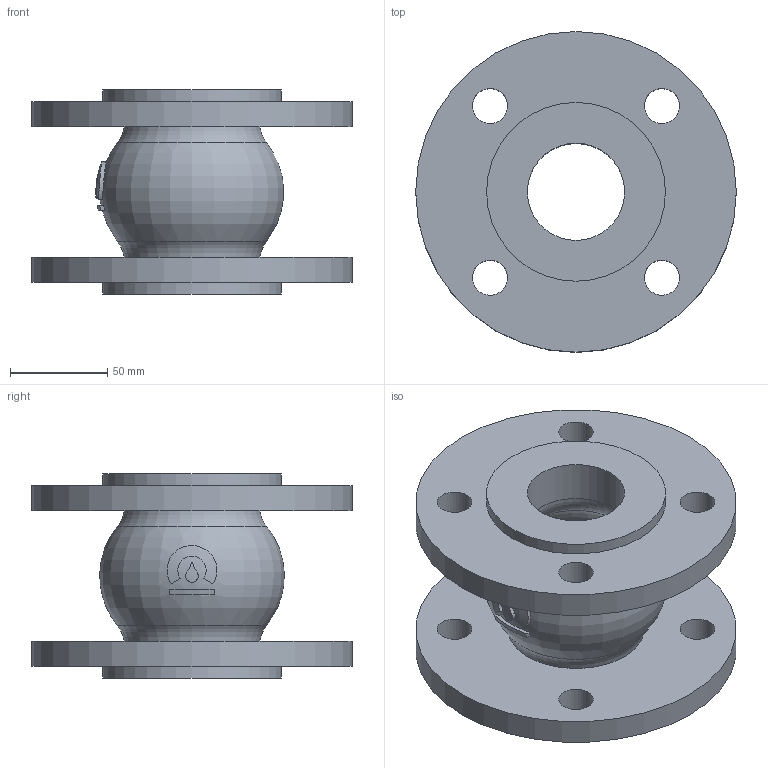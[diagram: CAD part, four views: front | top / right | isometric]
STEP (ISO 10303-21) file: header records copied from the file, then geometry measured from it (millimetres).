
FILE_DESCRIPTION(('STEP AP203'), '1');
FILE_NAME('Êîìïåíñàòîð KMS DN50 PN10_16', '', ('UNSPECIFIED'), ('UNSPECIFIED'), 'ASCON STEP Converter 1.6', 'ASCON Math Kernel', '');
FILE_SCHEMA(('CONFIG_CONTROL_DESIGN'));
Length unit declared in the file: millimetre
Bounding box: 165 x 165 x 105 mm (x, y, z)
Volume: 706977.6 mm3; surface area: 132947.8 mm2
Topology: 1 solids, 1 shells, 43 faces, 96 edges, 62 vertices
Faces by surface type: cylinder 21, plane 13, torus 9
Full cylindrical faces by diameter (mm): 18 x8, 50 x2, 92 x2, 165 x2
Entity records: 2248 total; most frequent: CARTESIAN_POINT 957, DIRECTION 182, ORIENTED_EDGE 152, EDGE_LOOP 88, AXIS2_PLACEMENT_3D 84, EDGE_CURVE 76, VERTEX_POINT 62, FACE_BOUND 48
